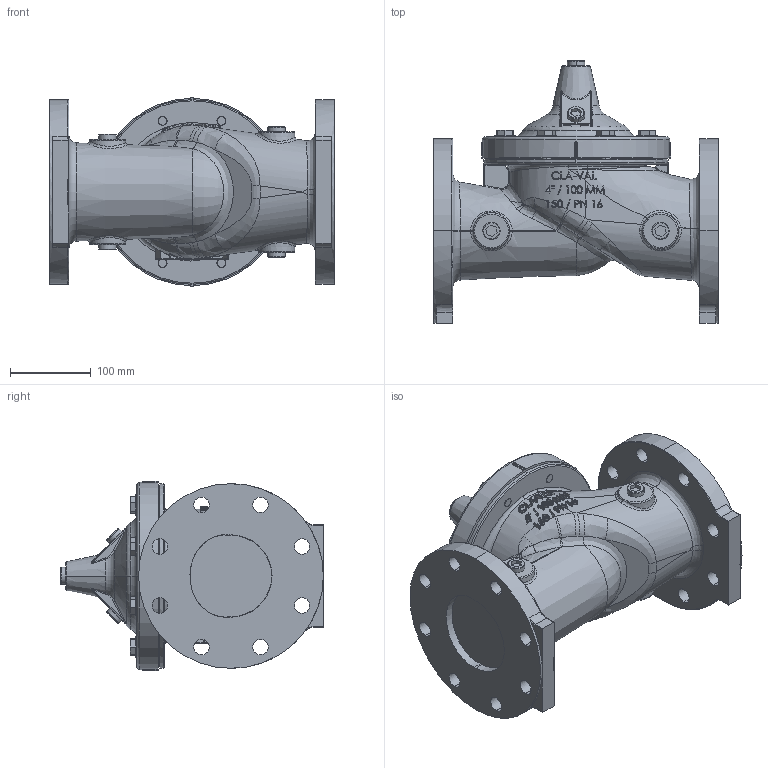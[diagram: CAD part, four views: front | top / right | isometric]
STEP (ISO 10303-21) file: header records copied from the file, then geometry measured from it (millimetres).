
FILE_DESCRIPTION (( 'STEP AP203' ), '1' );
FILE_NAME ('4in 100-20 150AG (surface).STEP', '2017-11-16T20:55:50', ( '' ), ( '' ), 'SwSTEP 2.0', 'SolidWorks 2017', '' );
FILE_SCHEMA (( 'CONFIG_CONTROL_DESIGN' ));
Length unit declared in the file: inch
Products named in the file (1): 4in 100-20 150AG (surface)
Bounding box: 352.55 x 325.15 x 234.7 mm (x, y, z)
Surface area: 438968.5 mm2 (no closed solid volume)
Topology: 0 solids, 32 shells, 908 faces, 2566 edges, 1617 vertices
Faces by surface type: plane 313, bspline 243, cylinder 190, cone 85, torus 69, sphere 8
Entity records: 45289 total; most frequent: CARTESIAN_POINT 24220, ORIENTED_EDGE 4485, DIRECTION 3881, EDGE_CURVE 2538, VERTEX_POINT 1617, AXIS2_PLACEMENT_3D 1501, EDGE_LOOP 1007, ADVANCED_FACE 908
